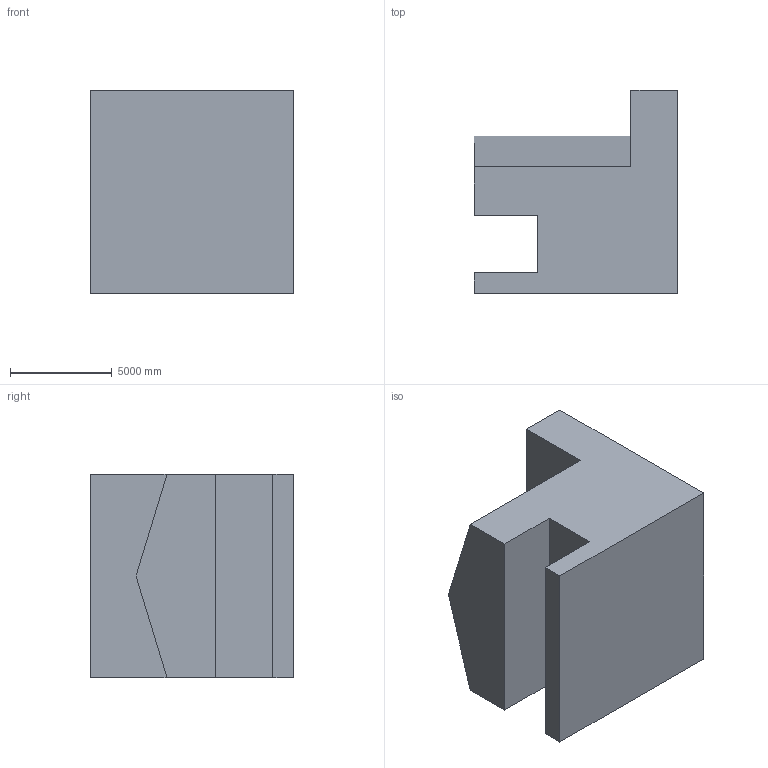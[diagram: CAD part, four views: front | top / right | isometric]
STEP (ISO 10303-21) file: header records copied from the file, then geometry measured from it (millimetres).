
FILE_DESCRIPTION (( 'STEP AP203' ), '1' );
FILE_NAME ('165.STEP', '2022-07-28T13:47:17', ( 'user' ), ( '' ), 'SwSTEP 2.0', 'SolidWorks 2021', '' );
FILE_SCHEMA (( 'CONFIG_CONTROL_DESIGN' ));
Length unit declared in the file: centimetre
Products named in the file (1): 165
Bounding box: 10000 x 10000 x 10000 mm (x, y, z)
Volume: 680368955568.3 mm3; surface area: 590081043.9 mm2
Topology: 1 solids, 1 shells, 13 faces, 33 edges, 22 vertices
Faces by surface type: plane 13
Entity records: 464 total; most frequent: CARTESIAN_POINT 69, ORIENTED_EDGE 66, DIRECTION 61, EDGE_CURVE 33, LINE 33, VECTOR 33, VERTEX_POINT 22, AXIS2_PLACEMENT_3D 14
